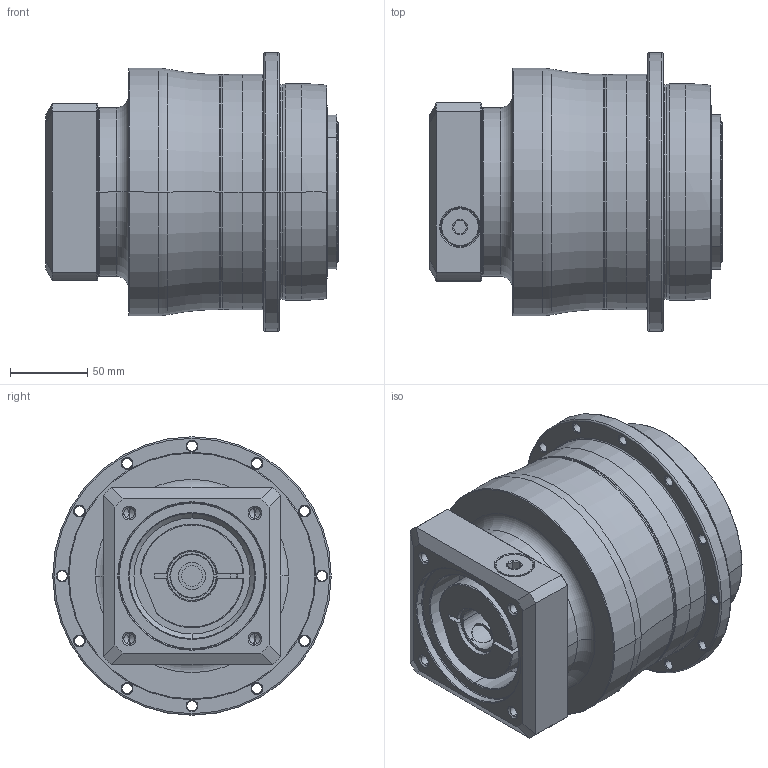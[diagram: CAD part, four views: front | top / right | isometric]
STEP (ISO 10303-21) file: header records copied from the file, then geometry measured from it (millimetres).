
FILE_DESCRIPTION((''),'2;1');
FILE_NAME('AH140_2ST_28-P0409600101_ASM','2016-08-08T',('d01943'),(''),'PRO/ENGINEER BY PARAMETRIC TECHNOLOGY CORPORATION, 2008410','PRO/ENGINEER BY PARAMETRIC TECHNOLOGY CORPORATION, 2008410','');
FILE_SCHEMA(('CONFIG_CONTROL_DESIGN'));
Length unit declared in the file: millimetre
Products named in the file (8): P0278500003; P0359500002; P1317500201; P0409600101; P0503600010; P0912402001; 21711418017; AH140_2ST_28-P0409600101_ASM
Assembly tree (7 placements, depth 2):
  AH140_2ST_28-P0409600101_ASM
    P0278500003
    P0359500002
    P1317500201
    P0409600101
    P0503600010
    P0912402001
    21711418017
Bounding box: 189 x 180 x 180 mm (x, y, z)
Volume: 2729415.9 mm3; surface area: 302365.3 mm2
Topology: 8 solids, 8 shells, 549 faces, 1245 edges, 731 vertices
Faces by surface type: cylinder 210, cone 168, plane 97, torus 60, bspline 14
Entity records: 19911 total; most frequent: CARTESIAN_POINT 7349, DIRECTION 2831, ORIENTED_EDGE 2398, EDGE_CURVE 1199, AXIS2_PLACEMENT_3D 1191, VERTEX_POINT 731, EDGE_LOOP 652, CIRCLE 641
